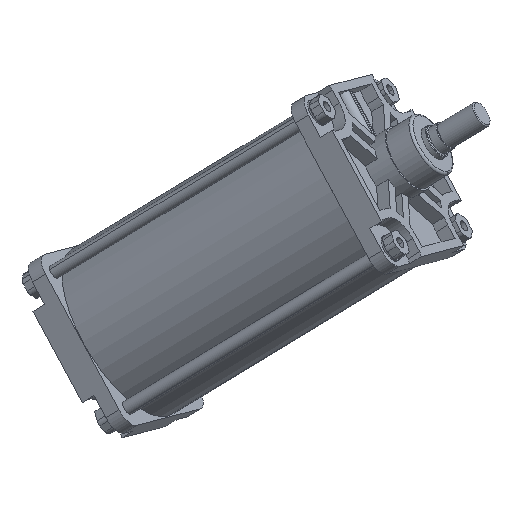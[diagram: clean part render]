
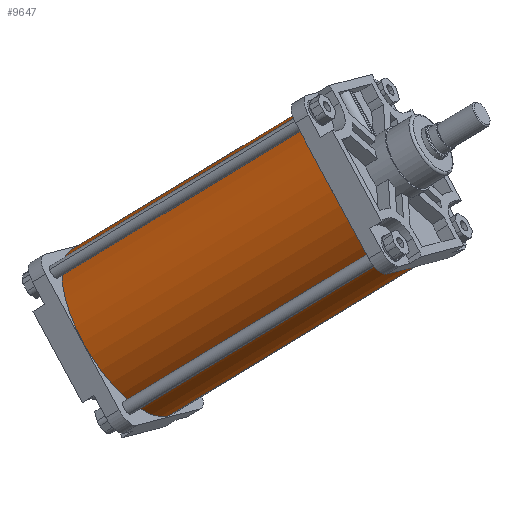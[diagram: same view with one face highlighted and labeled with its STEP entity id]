
A CAD part, top view. The second image highlights one B-rep face of the part: STEP entity #9647.
In plain terms, the highlighted cylindrical face has radius 168 mm (diameter 336 mm), a partial arc.
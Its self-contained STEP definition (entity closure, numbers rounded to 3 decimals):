
#8886=CARTESIAN_POINT('Vertex',(0.,168.,0.)) ;
#8888=CARTESIAN_POINT('Vertex',(0.,-168.,0.)) ;
#8891=CARTESIAN_POINT('Axis2P3D Location',(0.,0.,0.)) ;
#9605=CARTESIAN_POINT('Axis2P3D Location',(-278.,0.,0.)) ;
#9610=CARTESIAN_POINT('Line Origine',(-278.,168.,0.)) ;
#9614=CARTESIAN_POINT('Vertex',(-556.,168.,0.)) ;
#9617=CARTESIAN_POINT('Line Origine',(-278.,-168.,0.)) ;
#9621=CARTESIAN_POINT('Vertex',(-556.,-168.,0.)) ;
#9636=CARTESIAN_POINT('Axis2P3D Location',(-556.,0.,0.)) ;
#8892=DIRECTION('Axis2P3D Direction',(1.,0.,0.)) ;
#9606=DIRECTION('Axis2P3D Direction',(-1.,-0.,0.)) ;
#9607=DIRECTION('Axis2P3D XDirection',(0.,-1.,0.)) ;
#9611=DIRECTION('Vector Direction',(-1.,0.,0.)) ;
#9618=DIRECTION('Vector Direction',(-1.,0.,0.)) ;
#9637=DIRECTION('Axis2P3D Direction',(-1.,-0.,0.)) ;
#8893=AXIS2_PLACEMENT_3D('Circle Axis2P3D',#8891,#8892,$) ;
#9608=AXIS2_PLACEMENT_3D('Cylinder Axis2P3D',#9605,#9606,#9607) ;
#9638=AXIS2_PLACEMENT_3D('Circle Axis2P3D',#9636,#9637,$) ;
#9642=ORIENTED_EDGE('',*,*,#9623,.F.) ;
#9643=ORIENTED_EDGE('',*,*,#8895,.T.) ;
#9644=ORIENTED_EDGE('',*,*,#9616,.T.) ;
#9645=ORIENTED_EDGE('',*,*,#9640,.F.) ;
#9612=VECTOR('Line Direction',#9611,1.) ;
#9619=VECTOR('Line Direction',#9618,1.) ;
#9647=ADVANCED_FACE('PartBody',(#9646),#9609,.T.) ;
#8894=CIRCLE('generated circle',#8893,168.) ;
#9639=CIRCLE('generated circle',#9638,168.) ;
#9609=CYLINDRICAL_SURFACE('generated cylinder',#9608,168.) ;
#8895=EDGE_CURVE('',#8889,#8887,#8894,.F.) ;
#9616=EDGE_CURVE('',#8887,#9615,#9613,.T.) ;
#9623=EDGE_CURVE('',#8889,#9622,#9620,.T.) ;
#9640=EDGE_CURVE('',#9622,#9615,#9639,.T.) ;
#9641=EDGE_LOOP('',(#9642,#9643,#9644,#9645)) ;
#9646=FACE_OUTER_BOUND('',#9641,.T.) ;
#9613=LINE('Line',#9610,#9612) ;
#9620=LINE('Line',#9617,#9619) ;
#8887=VERTEX_POINT('',#8886) ;
#8889=VERTEX_POINT('',#8888) ;
#9615=VERTEX_POINT('',#9614) ;
#9622=VERTEX_POINT('',#9621) ;
